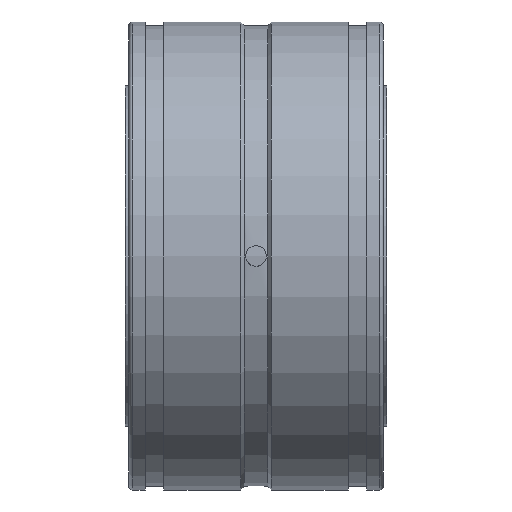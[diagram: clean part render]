
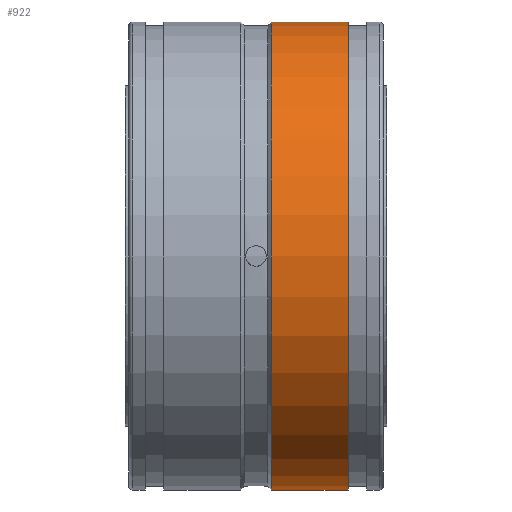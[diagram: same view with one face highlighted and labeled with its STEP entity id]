
A CAD part, front view. The second image highlights one B-rep face of the part: STEP entity #922.
In plain terms, the highlighted cylindrical face has radius 34 mm (diameter 68 mm), a full revolution.
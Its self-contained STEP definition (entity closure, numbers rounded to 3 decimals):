
#167=CYLINDRICAL_SURFACE('',#1051,34.);
#224=FACE_BOUND('',#421,.T.);
#299=FACE_OUTER_BOUND('',#420,.T.);
#420=EDGE_LOOP('',(#784));
#421=EDGE_LOOP('',(#785));
#518=CIRCLE('',#1050,34.);
#519=CIRCLE('',#1052,34.);
#592=VERTEX_POINT('',#1819);
#593=VERTEX_POINT('',#1822);
#666=EDGE_CURVE('',#592,#592,#518,.T.);
#667=EDGE_CURVE('',#593,#593,#519,.T.);
#784=ORIENTED_EDGE('',*,*,#667,.T.);
#785=ORIENTED_EDGE('',*,*,#666,.T.);
#922=ADVANCED_FACE('',(#299,#224),#167,.T.);
#1050=AXIS2_PLACEMENT_3D('',#1820,#1318,#1319);
#1051=AXIS2_PLACEMENT_3D('',#1821,#1320,#1321);
#1052=AXIS2_PLACEMENT_3D('',#1823,#1322,#1323);
#1318=DIRECTION('center_axis',(-1.,0.,0.));
#1319=DIRECTION('ref_axis',(0.,1.,0.));
#1320=DIRECTION('center_axis',(1.,0.,0.));
#1321=DIRECTION('ref_axis',(0.,1.,0.));
#1322=DIRECTION('center_axis',(1.,0.,0.));
#1323=DIRECTION('ref_axis',(0.,0.,-1.));
#1819=CARTESIAN_POINT('',(13.4,34.,0.));
#1820=CARTESIAN_POINT('Origin',(13.4,0.,0.));
#1821=CARTESIAN_POINT('Origin',(15.65,0.,0.));
#1822=CARTESIAN_POINT('',(2.25,34.,0.));
#1823=CARTESIAN_POINT('Origin',(2.25,0.,0.));
